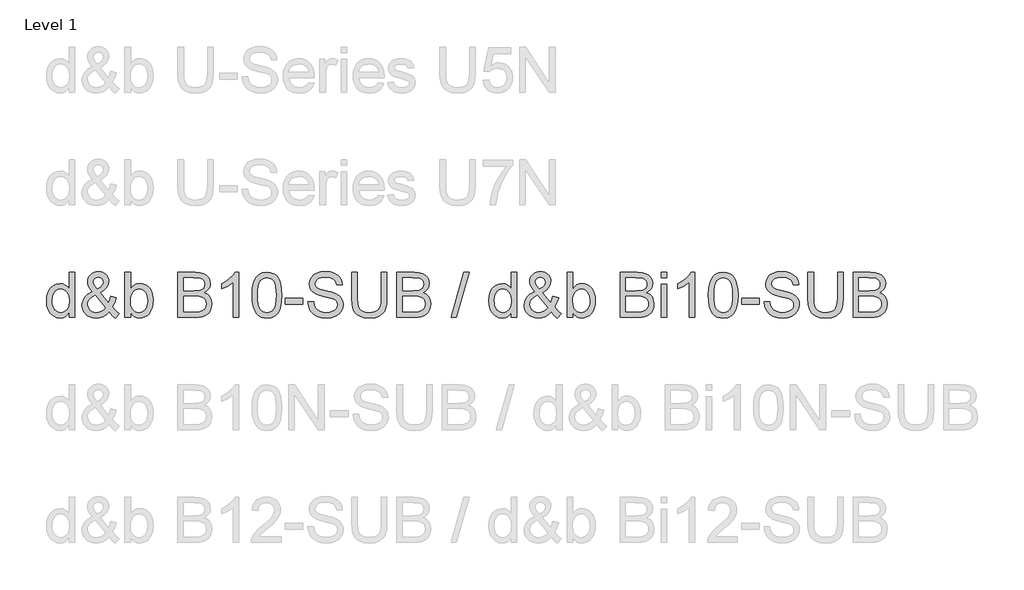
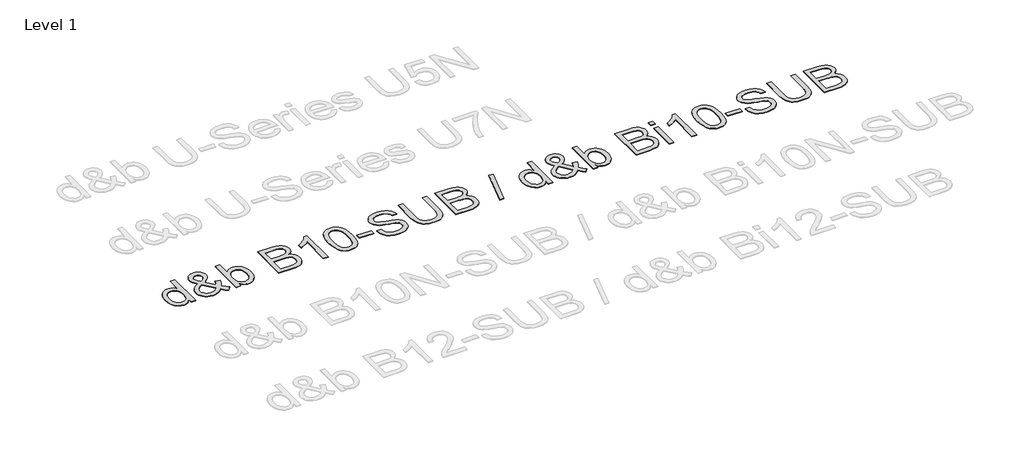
# One storey, part 21 of 29: 1 proxy.
"""IFC4 building model written with IfcOpenShell, lengths in millimetres."""

from ifc_helpers import new_model, si_unit, origin, origin_with_axes, place, context, project, spatial, polyline, outline, extrude, element, save

model = new_model("IFC4")

# Units and contexts
model_context = context("Model", 3, world=origin())
ifc_project = project(units=[si_unit("LENGTHUNIT", "METRE", prefix="MILLI")], contexts=[model_context])

# Site, building, storey
site = spatial("IfcSite", under=ifc_project)
building = spatial("IfcBuilding", under=site)
storey = spatial("IfcBuildingStorey", under=building, Name="Level 1", Elevation=0.0)

# Proxy
placement = place(None, origin())
element("IfcBuildingElementProxy", 1, Name="400mm Arial", ObjectType="400mm Arial", at=placement, inside=storey, context=model_context, shape_type="SweptSolid", body=[
    extrude(outline(polyline([(-20788.4119982, 10464.3636615), (-20788.4119982, 10511.7468625), (-20803.4399777, 10488.2698598), (-20821.6440051, 10471.5005722), (-20843.0240804, 10461.4389996), (-20867.5802036, 10458.0851421), (-20900.051921, 10462.9411844), (-20929.7767862, 10477.5093115), (-20954.9399147, 10500.7717163), (-20973.7264219, 10531.7105921), (-20985.4250694, 10569.0751401), (-20989.3246185, 10611.6145614), (-20985.7316377, 10653.6266853), (-20974.9526952, 10691.5675817), (-20957.0000539, 10723.2790097), (-20931.8859763, 10746.6027282), (-20901.5111863, 10760.950126), (-20867.7764073, 10765.7325919), (-20843.20189, 10762.3112894), (-20821.4723268, 10752.0473817), (-20803.0537016, 10736.3142951), (-20788.4119982, 10716.4854555), (-20788.4119982, 10866.1889021), (-20738.1838431, 10866.1889021), (-20738.1838431, 10464.3636615), (-20788.4119982, 10464.3636615)]), holes=[polyline([(-20939.0964634, 10611.8107652), (-20937.6801177, 10587.4539114), (-20933.4310807, 10566.3773388), (-20926.3493523, 10548.5810472), (-20916.4349325, 10534.0650368), (-20891.7377879, 10514.7512321), (-20877.8625053, 10509.9227809), (-20862.9694159, 10508.3132972), (-20848.0058157, 10509.8492045), (-20834.2133066, 10514.4569265), (-20810.1415614, 10532.8878145), (-20800.6348775, 10546.7968196), (-20793.844389, 10563.9493176), (-20788.4119982, 10607.9847924), (-20793.9424909, 10656.1282828), (-20800.8556067, 10674.663404), (-20810.5339688, 10689.5074425), (-20822.235682, 10700.8811276), (-20835.2188507, 10709.0051883), (-20849.4834751, 10713.8796247), (-20865.0295551, 10715.5044369), (-20880.2169501, 10713.9440041), (-20894.0922327, 10709.2627057), (-20906.6554028, 10701.4605417), (-20917.9064605, 10690.5375121), (-20927.1770868, 10676.2544937), (-20933.7989627, 10658.372363), (-20939.0964634, 10611.8107652)])]), origin_with_axes(), (0.0, 0.0, 1.0), 5.0),
    extrude(outline(polyline([(-20432.4003287, 10514.0032054), (-20457.9313392, 10489.5390527), (-20485.6696416, 10472.0646579), (-20515.664287, 10461.5800211), (-20547.9643262, 10458.0851421), (-20577.2722584, 10460.6725788), (-20603.3918801, 10468.4348889), (-20626.3231911, 10481.3720724), (-20646.0661915, 10499.4841293), (-20658.8991418, 10516.8542908), (-20668.0655348, 10535.2177338), (-20673.5653707, 10554.5744581), (-20675.3986493, 10574.9244638), (-20669.5002746, 10610.118508), (-20651.8051507, 10641.7318341), (-20622.3868538, 10669.7399167), (-20581.3189604, 10694.1182302), (-20603.2324646, 10722.4696693), (-20616.3903773, 10744.9349965), (-20622.975465, 10764.1139112), (-20625.1704942, 10782.6061128), (-20623.4414488, 10800.1602153), (-20618.2543127, 10816.5248327), (-20609.6090858, 10831.699965), (-20597.5057682, 10845.6856122), (-20582.784357, 10857.4026538), (-20566.2848495, 10865.7719692), (-20548.0072457, 10870.7935584), (-20527.9515456, 10872.4674215), (-20508.8032878, 10870.8671348), (-20491.4821772, 10866.0662748), (-20475.9882138, 10858.0648414), (-20462.3213977, 10846.8628346), (-20451.1623105, 10833.4167477), (-20443.1915339, 10818.6830738), (-20438.409068, 10802.6618129), (-20436.8149127, 10785.352965), (-20441.5360649, 10757.3694079), (-20455.6995218, 10731.4950409), (-20479.3052831, 10707.729864), (-20512.353349, 10686.0738773), (-20439.6598668, 10595.5258555), (-20427.2745063, 10621.4002225), (-20417.9793545, 10651.1496132), (-20367.7511994, 10640.2603061), (-20383.2022432, 10593.7354965), (-20403.2640747, 10557.5604336), (-20374.7164319, 10524.2548503), (-20342.6371219, 10496.7372771), (-20380.3082382, 10458.0851421), (-20405.9373505, 10481.5314879), (-20432.4003287, 10514.0032054)]), holes=[polyline([(-20537.7617322, 10717.7607798), (-20511.4949577, 10734.4258341), (-20496.4608468, 10748.908122), (-20489.3975125, 10762.9980024), (-20487.0430678, 10778.4858344), (-20490.1455392, 10796.0338056), (-20499.4529537, 10810.0255842), (-20513.4202068, 10819.1858458), (-20530.5021941, 10822.2392664), (-20547.9520634, 10819.2103713), (-20562.2381476, 10810.123686), (-20571.7662912, 10796.6714677), (-20574.9423391, 10780.5459736), (-20570.6258571, 10762.1518739), (-20557.578309, 10741.6976349), (-20537.7617322, 10717.7607798)]), polyline([(-20466.0492686, 10550.2027937), (-20555.7143735, 10662.1370221), (-20589.9641873, 10640.2848316), (-20610.8966728, 10620.0513218), (-20621.6020389, 10600.7252544), (-20625.1704942, 10581.5953906), (-20620.2899264, 10557.9037901), (-20605.648223, 10533.3292729), (-20594.8692805, 10522.3847835), (-20582.0547244, 10514.5672911), (-20567.2045545, 10509.8767957), (-20550.3187709, 10508.3132972), (-20527.5959264, 10511.2318277), (-20504.1618433, 10519.9874192), (-20482.7388484, 10533.3783238), (-20466.0492686, 10550.2027937)])]), origin_with_axes(), (0.0, 0.0, 1.0), 5.0),
    extrude(outline(polyline([(-20242.1808118, 10464.3636615), (-20292.4089668, 10464.3636615), (-20292.4089668, 10866.1889021), (-20242.1808118, 10866.1889021), (-20242.1808118, 10717.1721686), (-20225.6629102, 10738.4173538), (-20207.011293, 10753.5924861), (-20186.2259603, 10762.6975655), (-20163.306912, 10765.7325919), (-20137.432545, 10762.9980024), (-20112.9806551, 10754.7942339), (-20091.3491937, 10741.6363213), (-20073.9361126, 10724.0392992), (-20060.2876906, 10702.1748459), (-20049.9502065, 10676.2146398), (-20043.4386952, 10647.2378013), (-20041.2681915, 10616.323451), (-20043.5153373, 10580.6511602), (-20050.2567749, 10549.270826), (-20061.4925041, 10522.1824484), (-20077.2225251, 10499.3860274), (-20096.1040685, 10481.3168901), (-20116.7943651, 10468.4103634), (-20139.2934148, 10460.6664474), (-20163.6012176, 10458.0851421), (-20187.274424, 10461.4144742), (-20208.2620918, 10471.4024703), (-20226.5642211, 10488.0491306), (-20242.1808118, 10511.354455), (-20242.1808118, 10464.3636615)]), holes=[polyline([(-20242.1808118, 10613.9690062), (-20238.7472465, 10572.0795097), (-20228.4465506, 10543.7280706), (-20216.2757879, 10528.2341072), (-20202.1307252, 10517.1669905), (-20186.0113625, 10510.5267205), (-20167.9176997, 10508.3132972), (-20152.8958515, 10509.9442407), (-20138.9285984, 10514.8370712), (-20126.0159404, 10522.9917888), (-20114.1578774, 10534.4083934), (-20104.2434577, 10549.0562281), (-20097.1617293, 10566.9046363), (-20092.9126922, 10587.9536178), (-20091.4963465, 10612.2031726), (-20096.9287373, 10658.1638965), (-20103.7192258, 10675.9571224), (-20113.2259097, 10690.2922575), (-20124.6578427, 10701.322586), (-20137.2240785, 10709.201392), (-20150.9246172, 10713.9286757), (-20165.7594586, 10715.5044369), (-20180.7813068, 10713.8734934), (-20194.7485599, 10708.9806628), (-20207.6612179, 10700.8259453), (-20219.5192809, 10689.4093407), (-20229.4337006, 10674.9086587), (-20236.515429, 10657.501709), (-20240.7644661, 10637.1884915), (-20242.1808118, 10613.9690062)])]), origin_with_axes(), (0.0, 0.0, 1.0), 5.0),
    extrude(outline(polyline([(-19821.520013, 10464.3636615), (-19821.520013, 10866.1889021), (-19668.1867974, 10866.1889021), (-19626.015258, 10863.2335834), (-19593.0898195, 10854.3676273), (-19567.8531146, 10839.3703046), (-19548.7477763, 10818.0208862), (-19536.7180351, 10792.9068086), (-19532.7081213, 10766.6155087), (-19536.080373, 10742.4211362), (-19546.1971278, 10719.6737661), (-19563.1319623, 10699.7713502), (-19586.9584529, 10684.1118399), (-19558.4966492, 10669.2494073), (-19537.4660618, 10646.6369274), (-19524.4798274, 10617.7704535), (-19520.1510826, 10584.1460391), (-19523.1064013, 10556.1256938), (-19531.9723573, 10530.1409622), (-19545.2038464, 10508.0435171), (-19561.2557642, 10491.685031), (-19580.9129254, 10479.8392308), (-19604.9601452, 10471.279843), (-19634.1822383, 10466.0927069), (-19669.3640198, 10464.3636615), (-19821.520013, 10464.3636615)]), holes=[polyline([(-19771.2918579, 10702.9473981), (-19679.5666138, 10702.9473981), (-19626.0029953, 10707.2638802), (-19607.2532763, 10714.7073592), (-19593.7765325, 10725.8541837), (-19585.6463404, 10740.5326753), (-19582.9362764, 10758.5711558), (-19585.4623994, 10776.0823387), (-19593.0407685, 10791.3371788), (-19605.3280272, 10803.2442927), (-19621.9808188, 10810.7122972), (-19647.5363548, 10814.6486346), (-19686.5318462, 10815.960747), (-19771.2918579, 10815.960747), (-19771.2918579, 10702.9473981)]), polyline([(-19771.2918579, 10514.5918166), (-19668.2848993, 10514.5918166), (-19631.0061904, 10516.5538539), (-19599.4664407, 10527.4922119), (-19587.8904206, 10536.9222537), (-19578.5707434, 10549.8103862), (-19572.4271141, 10565.5802611), (-19570.3792376, 10583.6555298), (-19572.7827333, 10604.649329), (-19579.9932204, 10622.7000722), (-19592.5870474, 10636.8144781), (-19611.1405627, 10645.9992652), (-19637.4195999, 10651.0392486), (-19673.1899926, 10652.719243), (-19771.2918579, 10652.719243), (-19771.2918579, 10514.5918166)])]), origin_with_axes(), (0.0, 0.0, 1.0), 5.0),
    extrude(outline(polyline([(-19281.567346, 10464.3636615), (-19331.795501, 10464.3636615), (-19331.795501, 10777.5048158), (-19352.7647748, 10760.5454558), (-19379.3749057, 10743.6106213), (-19432.2518112, 10718.2512891), (-19432.2518112, 10765.7325919), (-19392.8025986, 10787.192375), (-19358.6263612, 10812.7233855), (-19331.6851364, 10839.8730767), (-19313.9409615, 10866.1889021), (-19281.567346, 10866.1889021), (-19281.567346, 10464.3636615)])), origin_with_axes(), (0.0, 0.0, 1.0), 5.0),
    extrude(outline(polyline([(-19162.2754777, 10662.0389202), (-19158.584395, 10726.3569557), (-19147.5111469, 10777.6519686), (-19129.1660981, 10816.7087737), (-19117.3080351, 10831.942154), (-19103.6596131, 10844.3121861), (-19088.1748468, 10853.8832494), (-19070.8077509, 10860.7197231), (-19030.4265706, 10866.1889021), (-18999.4754321, 10862.9515405), (-18971.7616551, 10853.2394559), (-18948.5850894, 10837.4327928), (-18931.2455847, 10815.9116961), (-18918.1489857, 10788.8601067), (-18907.701137, 10756.4619657), (-18900.8585319, 10715.3204959), (-18898.5776635, 10662.0389202), (-18902.231958, 10598.0887667), (-18913.1948415, 10546.9163812), (-18931.4295257, 10507.8227879), (-18943.2599975, 10492.5434223), (-18956.8992225, 10480.1090109), (-18972.4023829, 10470.4735683), (-18989.824661, 10463.5911093), (-19030.4265706, 10458.0851421), (-19058.0912966, 10460.4763751), (-19082.616763, 10467.650074), (-19104.0029696, 10479.6062388), (-19122.2499166, 10496.3448696), (-19139.7610995, 10526.6031637), (-19152.2690874, 10564.3049368), (-19159.7738801, 10609.450189), (-19162.2754777, 10662.0389202)]), holes=[polyline([(-19112.0473226, 10662.1370221), (-19110.5757946, 10618.472495), (-19106.1612107, 10583.1282323), (-19098.8035708, 10556.104234), (-19088.5028749, 10537.4005003), (-19076.043938, 10524.6748489), (-19062.211575, 10515.585098), (-19047.0057858, 10510.1312474), (-19030.4265706, 10508.3132972), (-19013.8473553, 10510.1373787), (-18998.6415662, 10515.6096234), (-18984.8092032, 10524.7300312), (-18972.3502663, 10537.4986021), (-18962.0495704, 10556.2329927), (-18954.6919305, 10583.2508596), (-18950.2773466, 10618.5522027), (-18948.8058186, 10662.1370221), (-18950.2282956, 10704.6457866), (-18954.4957268, 10739.3677156), (-18961.608112, 10766.302809), (-18971.5654514, 10785.4510669), (-18983.8159218, 10798.7990519), (-18997.8077003, 10808.333327), (-19013.540787, 10814.053892), (-19031.0151818, 10815.960747), (-19047.5085579, 10814.2807526), (-19062.4568296, 10809.2407692), (-19075.859997, 10800.840797), (-19087.71806, 10789.0808359), (-19098.3621124, 10768.2341895), (-19105.9650069, 10740.1280051), (-19110.5267437, 10704.7622826), (-19112.0473226, 10662.1370221)])]), origin_with_axes(), (0.0, 0.0, 1.0), 5.0),
    extrude(outline(polyline([(-18867.1850666, 10583.6555298), (-18867.1850666, 10633.8836849), (-18710.222082, 10633.8836849), (-18710.222082, 10583.6555298), (-18867.1850666, 10583.6555298)])), origin_with_axes(), (0.0, 0.0, 1.0), 5.0),
    extrude(outline(polyline([(-18666.2724463, 10602.4910879), (-18616.0442912, 10602.4910879), (-18610.2808066, 10574.6178954), (-18599.8574834, 10552.2138819), (-18583.5970992, 10534.4329188), (-18560.3224317, 10520.4288776), (-18531.8728907, 10511.3421923), (-18500.0878863, 10508.3132972), (-18472.1043292, 10510.6064283), (-18447.6033884, 10517.4858216), (-18427.7500234, 10528.3751287), (-18413.7091939, 10542.698001), (-18405.3582726, 10559.1423262), (-18402.5746321, 10576.3959918), (-18404.6592968, 10593.2081989), (-18410.9132907, 10607.7395377), (-18423.6174823, 10620.137161), (-18445.0527399, 10630.5482214), (-18518.1876805, 10649.7271361), (-18566.1962809, 10662.419065), (-18596.9144275, 10674.4978571), (-18621.9181404, 10691.3959034), (-18639.6377898, 10711.8746678), (-18650.1960031, 10735.4926919), (-18653.7154075, 10761.8085173), (-18649.3621372, 10791.2268142), (-18636.3023264, 10818.6585483), (-18614.8793316, 10841.9086904), (-18585.4365092, 10858.7822113), (-18550.0953122, 10869.0461189), (-18510.9771934, 10872.4674215), (-18468.5971875, 10868.8867034), (-18431.5146824, 10858.1445491), (-18401.0540532, 10840.4616879), (-18378.5396751, 10816.0588489), (-18364.2903792, 10786.456611), (-18358.6249965, 10753.1755532), (-18408.8531515, 10753.1755532), (-18418.0747269, 10783.145673), (-18426.4379109, 10795.003736), (-18437.3026925, 10804.7771344), (-18467.3463888, 10817.8737334), (-18509.0151561, 10822.2392664), (-18551.6649421, 10817.9227843), (-18567.9682458, 10812.5271817), (-18580.9238234, 10804.9733381), (-18597.8463952, 10785.9170507), (-18603.4872524, 10763.2800453), (-18599.4896014, 10743.9785033), (-18587.4966484, 10728.4538831), (-18559.1452093, 10714.5724691), (-18505.4834889, 10700.3967496), (-18450.1049859, 10686.9322686), (-18416.6031989, 10675.1845702), (-18387.9697169, 10656.9621487), (-18367.9937246, 10634.4722961), (-18356.258289, 10607.9602669), (-18352.3464771, 10577.671316), (-18356.8469001, 10546.7079147), (-18370.3481694, 10517.5839235), (-18392.2984617, 10492.5188969), (-18422.1459543, 10473.7323896), (-18458.0389743, 10461.996954), (-18498.125849, 10458.0851421), (-18547.3361972, 10462.3035223), (-18587.8400049, 10474.958663), (-18620.1032559, 10496.0996149), (-18644.591934, 10525.7754292), (-18660.312758, 10561.9259666), (-18666.2724463, 10602.4910879)])), origin_with_axes(), (0.0, 0.0, 1.0), 5.0),
    extrude(outline(polyline([(-18013.3064303, 10866.1889021), (-17963.0782752, 10866.1889021), (-17963.0782752, 10634.3741942), (-17966.4873151, 10580.0870744), (-17976.7144345, 10538.2834171), (-17984.8998089, 10521.3301884), (-17995.8197728, 10506.0324288), (-18025.8634691, 10480.4033165), (-18045.0055956, 10470.6391152), (-18066.9190997, 10463.6646857), (-18119.0602412, 10458.0851421), (-18170.0609485, 10462.9411844), (-18210.8345363, 10477.5093115), (-18227.389226, 10488.3097137), (-18241.3932673, 10501.2867511), (-18252.8466601, 10516.4404236), (-18261.7494044, 10533.7707312), (-18273.1905344, 10577.3402222), (-18277.0042445, 10634.3741942), (-18277.0042445, 10866.1889021), (-18226.7760894, 10866.1889021), (-18226.7760894, 10636.1400278), (-18224.2990173, 10591.000907), (-18216.867801, 10559.5715218), (-18203.40332, 10537.8051705), (-18182.8264537, 10521.6551509), (-18155.9955935, 10511.6487606), (-18123.7691307, 10508.3132972), (-18096.0860106, 10509.9626348), (-18072.6825843, 10514.9106476), (-18053.558852, 10523.1573357), (-18038.7148135, 10534.702699), (-18027.5986458, 10550.9385577), (-18019.6585261, 10573.2567321), (-18014.8944543, 10601.6572221), (-18013.3064303, 10636.1400278), (-18013.3064303, 10866.1889021)])), origin_with_axes(), (0.0, 0.0, 1.0), 5.0),
    extrude(outline(polyline([(-17875.1790039, 10464.3636615), (-17875.1790039, 10866.1889021), (-17721.8457883, 10866.1889021), (-17679.6742489, 10863.2335834), (-17646.7488103, 10854.3676273), (-17621.5121055, 10839.3703046), (-17602.4067672, 10818.0208862), (-17590.3770259, 10792.9068086), (-17586.3671122, 10766.6155087), (-17589.7393638, 10742.4211362), (-17599.8561187, 10719.6737661), (-17616.7909532, 10699.7713502), (-17640.6174437, 10684.1118399), (-17612.15564, 10669.2494073), (-17591.1250527, 10646.6369274), (-17578.1388182, 10617.7704535), (-17573.8100734, 10584.1460391), (-17576.7653921, 10556.1256938), (-17585.6313482, 10530.1409622), (-17598.8628373, 10508.0435171), (-17614.914755, 10491.685031), (-17634.5719163, 10479.8392308), (-17658.619136, 10471.279843), (-17687.8412292, 10466.0927069), (-17723.0230107, 10464.3636615), (-17875.1790039, 10464.3636615)]), holes=[polyline([(-17824.9508488, 10702.9473981), (-17733.2256047, 10702.9473981), (-17679.6619862, 10707.2638802), (-17660.9122671, 10714.7073592), (-17647.4355234, 10725.8541837), (-17639.3053313, 10740.5326753), (-17636.5952673, 10758.5711558), (-17639.1213903, 10776.0823387), (-17646.6997594, 10791.3371788), (-17658.987018, 10803.2442927), (-17675.6398097, 10810.7122972), (-17701.1953456, 10814.6486346), (-17740.1908371, 10815.960747), (-17824.9508488, 10815.960747), (-17824.9508488, 10702.9473981)]), polyline([(-17824.9508488, 10514.5918166), (-17721.9438901, 10514.5918166), (-17684.6651813, 10516.5538539), (-17653.1254316, 10527.4922119), (-17641.5494115, 10536.9222537), (-17632.2297342, 10549.8103862), (-17626.0861049, 10565.5802611), (-17624.0382285, 10583.6555298), (-17626.4417242, 10604.649329), (-17633.6522113, 10622.7000722), (-17646.2460383, 10636.8144781), (-17664.7995536, 10645.9992652), (-17691.0785907, 10651.0392486), (-17726.8489834, 10652.719243), (-17824.9508488, 10652.719243), (-17824.9508488, 10514.5918166)])]), origin_with_axes(), (0.0, 0.0, 1.0), 5.0),
    extrude(outline(polyline([(-17391.7330113, 10464.3636615), (-17278.7196623, 10866.1889021), (-17233.2003968, 10866.1889021), (-17346.3118476, 10464.3636615), (-17391.7330113, 10464.3636615)])), origin_with_axes(), (0.0, 0.0, 1.0), 5.0),
    extrude(outline(polyline([(-16858.0588636, 10464.3636615), (-16858.0588636, 10511.7468625), (-16873.0868431, 10488.2698598), (-16891.2908705, 10471.5005722), (-16912.6709458, 10461.4389996), (-16937.227069, 10458.0851421), (-16969.6987864, 10462.9411844), (-16999.4236516, 10477.5093115), (-17024.5867801, 10500.7717163), (-17043.3732873, 10531.7105921), (-17055.0719347, 10569.0751401), (-17058.9714839, 10611.6145614), (-17055.3785031, 10653.6266853), (-17044.5995606, 10691.5675817), (-17026.6469193, 10723.2790097), (-17001.5328417, 10746.6027282), (-16971.1580516, 10760.950126), (-16937.4232727, 10765.7325919), (-16912.8487554, 10762.3112894), (-16891.1191922, 10752.0473817), (-16872.700567, 10736.3142951), (-16858.0588636, 10716.4854555), (-16858.0588636, 10866.1889021), (-16807.8307085, 10866.1889021), (-16807.8307085, 10464.3636615), (-16858.0588636, 10464.3636615)]), holes=[polyline([(-17008.7433288, 10611.8107652), (-17007.3269831, 10587.4539114), (-17003.0779461, 10566.3773388), (-16995.9962177, 10548.5810472), (-16986.0817979, 10534.0650368), (-16961.3846533, 10514.7512321), (-16947.5093707, 10509.9227809), (-16932.6162813, 10508.3132972), (-16917.6526811, 10509.8492045), (-16903.860172, 10514.4569265), (-16879.7884268, 10532.8878145), (-16870.2817429, 10546.7968196), (-16863.4912544, 10563.9493176), (-16858.0588636, 10607.9847924), (-16863.5893563, 10656.1282828), (-16870.5024721, 10674.663404), (-16880.1808342, 10689.5074425), (-16891.8825474, 10700.8811276), (-16904.8657161, 10709.0051883), (-16919.1303405, 10713.8796247), (-16934.6764205, 10715.5044369), (-16949.8638155, 10713.9440041), (-16963.7390981, 10709.2627057), (-16976.3022682, 10701.4605417), (-16987.5533259, 10690.5375121), (-16996.8239522, 10676.2544937), (-17003.4458281, 10658.372363), (-17008.7433288, 10611.8107652)])]), origin_with_axes(), (0.0, 0.0, 1.0), 5.0),
    extrude(outline(polyline([(-16502.0471941, 10514.0032054), (-16527.5782046, 10489.5390527), (-16555.316507, 10472.0646579), (-16585.3111524, 10461.5800211), (-16617.6111915, 10458.0851421), (-16646.9191238, 10460.6725788), (-16673.0387455, 10468.4348889), (-16695.9700565, 10481.3720724), (-16715.7130569, 10499.4841293), (-16728.5460072, 10516.8542908), (-16737.7124002, 10535.2177338), (-16743.2122361, 10554.5744581), (-16745.0455147, 10574.9244638), (-16739.14714, 10610.118508), (-16721.4520161, 10641.7318341), (-16692.0337192, 10669.7399167), (-16650.9658258, 10694.1182302), (-16672.87933, 10722.4696693), (-16686.0372427, 10744.9349965), (-16692.6223304, 10764.1139112), (-16694.8173596, 10782.6061128), (-16693.0883142, 10800.1602153), (-16687.9011781, 10816.5248327), (-16679.2559512, 10831.699965), (-16667.1526336, 10845.6856122), (-16652.4312224, 10857.4026538), (-16635.9317149, 10865.7719692), (-16617.6541111, 10870.7935584), (-16597.598411, 10872.4674215), (-16578.4501532, 10870.8671348), (-16561.1290426, 10866.0662748), (-16545.6350792, 10858.0648414), (-16531.9682631, 10846.8628346), (-16520.8091759, 10833.4167477), (-16512.8383993, 10818.6830738), (-16508.0559334, 10802.6618129), (-16506.4617781, 10785.352965), (-16511.1829303, 10757.3694079), (-16525.3463872, 10731.4950409), (-16548.9521485, 10707.729864), (-16582.0002144, 10686.0738773), (-16509.3067322, 10595.5258555), (-16496.9213717, 10621.4002225), (-16487.6262199, 10651.1496132), (-16437.3980648, 10640.2603061), (-16452.8491086, 10593.7354965), (-16472.9109401, 10557.5604336), (-16444.3632973, 10524.2548503), (-16412.2839873, 10496.7372771), (-16449.9551036, 10458.0851421), (-16475.5842159, 10481.5314879), (-16502.0471941, 10514.0032054)]), holes=[polyline([(-16535.696134, 10550.2027937), (-16625.3612389, 10662.1370221), (-16659.6110527, 10640.2848316), (-16680.5435382, 10620.0513218), (-16691.2489043, 10600.7252544), (-16694.8173596, 10581.5953906), (-16689.9367918, 10557.9037901), (-16675.2950884, 10533.3292729), (-16664.5161459, 10522.3847835), (-16651.7015898, 10514.5672911), (-16636.8514199, 10509.8767957), (-16619.9656363, 10508.3132972), (-16597.2427918, 10511.2318277), (-16573.8087087, 10519.9874192), (-16552.3857138, 10533.3783238), (-16535.696134, 10550.2027937)]), polyline([(-16607.4085976, 10717.7607798), (-16581.1418231, 10734.4258341), (-16566.1077122, 10748.908122), (-16559.0443779, 10762.9980024), (-16556.6899331, 10778.4858344), (-16559.7924046, 10796.0338056), (-16569.0998191, 10810.0255842), (-16583.0670722, 10819.1858458), (-16600.1490595, 10822.2392664), (-16617.5989288, 10819.2103713), (-16631.885013, 10810.123686), (-16641.4131566, 10796.6714677), (-16644.5892045, 10780.5459736), (-16640.2727225, 10762.1518739), (-16627.2251744, 10741.6976349), (-16607.4085976, 10717.7607798)])]), origin_with_axes(), (0.0, 0.0, 1.0), 5.0),
    extrude(outline(polyline([(-16311.8276772, 10464.3636615), (-16362.0558322, 10464.3636615), (-16362.0558322, 10866.1889021), (-16311.8276772, 10866.1889021), (-16311.8276772, 10717.1721686), (-16295.3097756, 10738.4173538), (-16276.6581584, 10753.5924861), (-16255.8728257, 10762.6975655), (-16232.9537774, 10765.7325919), (-16207.0794104, 10762.9980024), (-16182.6275205, 10754.7942339), (-16160.9960591, 10741.6363213), (-16143.582978, 10724.0392992), (-16129.934556, 10702.1748459), (-16119.5970719, 10676.2146398), (-16113.0855606, 10647.2378013), (-16110.9150569, 10616.323451), (-16113.1622027, 10580.6511602), (-16119.9036403, 10549.270826), (-16131.1393695, 10522.1824484), (-16146.8693905, 10499.3860274), (-16165.7509339, 10481.3168901), (-16186.4412305, 10468.4103634), (-16208.9402802, 10460.6664474), (-16233.248083, 10458.0851421), (-16256.9212894, 10461.4144742), (-16277.9089572, 10471.4024703), (-16296.2110865, 10488.0491306), (-16311.8276772, 10511.354455), (-16311.8276772, 10464.3636615)]), holes=[polyline([(-16311.8276772, 10613.9690062), (-16308.3941119, 10572.0795097), (-16298.093416, 10543.7280706), (-16285.9226533, 10528.2341072), (-16271.7775906, 10517.1669905), (-16255.6582279, 10510.5267205), (-16237.5645651, 10508.3132972), (-16222.5427169, 10509.9442407), (-16208.5754638, 10514.8370712), (-16195.6628058, 10522.9917888), (-16183.8047428, 10534.4083934), (-16173.8903231, 10549.0562281), (-16166.8085947, 10566.9046363), (-16162.5595576, 10587.9536178), (-16161.1432119, 10612.2031726), (-16166.5756027, 10658.1638965), (-16173.3660912, 10675.9571224), (-16182.8727751, 10690.2922575), (-16194.3047081, 10701.322586), (-16206.8709439, 10709.201392), (-16220.5714826, 10713.9286757), (-16235.406324, 10715.5044369), (-16250.4281722, 10713.8734934), (-16264.3954252, 10708.9806628), (-16277.3080833, 10700.8259453), (-16289.1661463, 10689.4093407), (-16299.080566, 10674.9086587), (-16306.1622944, 10657.501709), (-16310.4113315, 10637.1884915), (-16311.8276772, 10613.9690062)])]), origin_with_axes(), (0.0, 0.0, 1.0), 5.0),
    extrude(outline(polyline([(-15891.1668784, 10464.3636615), (-15891.1668784, 10866.1889021), (-15737.8336628, 10866.1889021), (-15695.6621234, 10863.2335834), (-15662.7366849, 10854.3676273), (-15637.49998, 10839.3703046), (-15618.3946417, 10818.0208862), (-15606.3649005, 10792.9068086), (-15602.3549867, 10766.6155087), (-15605.7272383, 10742.4211362), (-15615.8439932, 10719.6737661), (-15632.7788277, 10699.7713502), (-15656.6053183, 10684.1118399), (-15628.1435146, 10669.2494073), (-15607.1129272, 10646.6369274), (-15594.1266928, 10617.7704535), (-15589.797948, 10584.1460391), (-15592.7532667, 10556.1256938), (-15601.6192227, 10530.1409622), (-15614.8507118, 10508.0435171), (-15630.9026296, 10491.685031), (-15650.5597908, 10479.8392308), (-15674.6070106, 10471.279843), (-15703.8291037, 10466.0927069), (-15739.0108852, 10464.3636615), (-15891.1668784, 10464.3636615)]), holes=[polyline([(-15840.9387233, 10702.9473981), (-15749.2134792, 10702.9473981), (-15695.6498607, 10707.2638802), (-15676.9001417, 10714.7073592), (-15663.4233979, 10725.8541837), (-15655.2932058, 10740.5326753), (-15652.5831418, 10758.5711558), (-15655.1092648, 10776.0823387), (-15662.6876339, 10791.3371788), (-15674.9748926, 10803.2442927), (-15691.6276842, 10810.7122972), (-15717.1832202, 10814.6486346), (-15756.1787116, 10815.960747), (-15840.9387233, 10815.960747), (-15840.9387233, 10702.9473981)]), polyline([(-15840.9387233, 10514.5918166), (-15737.9317647, 10514.5918166), (-15700.6530558, 10516.5538539), (-15669.1133061, 10527.4922119), (-15657.537286, 10536.9222537), (-15648.2176088, 10549.8103862), (-15642.0739795, 10565.5802611), (-15640.026103, 10583.6555298), (-15642.4295987, 10604.649329), (-15649.6400858, 10622.7000722), (-15662.2339128, 10636.8144781), (-15680.7874281, 10645.9992652), (-15707.0664653, 10651.0392486), (-15742.836858, 10652.719243), (-15840.9387233, 10652.719243), (-15840.9387233, 10514.5918166)])]), origin_with_axes(), (0.0, 0.0, 1.0), 5.0),
    extrude(outline(polyline([(-15527.0127541, 10815.960747), (-15527.0127541, 10866.1889021), (-15476.784599, 10866.1889021), (-15476.784599, 10815.960747), (-15527.0127541, 10815.960747)])), origin_with_axes(), (0.0, 0.0, 1.0), 5.0),
    extrude(outline(polyline([(-15527.0127541, 10464.3636615), (-15527.0127541, 10759.4540726), (-15476.784599, 10759.4540726), (-15476.784599, 10464.3636615), (-15527.0127541, 10464.3636615)])), origin_with_axes(), (0.0, 0.0, 1.0), 5.0),
    extrude(outline(polyline([(-15225.6438237, 10464.3636615), (-15275.8719787, 10464.3636615), (-15275.8719787, 10777.5048158), (-15296.8412525, 10760.5454558), (-15323.4513835, 10743.6106213), (-15376.3282889, 10718.2512891), (-15376.3282889, 10765.7325919), (-15336.8790763, 10787.192375), (-15302.7028389, 10812.7233855), (-15275.7616141, 10839.8730767), (-15258.0174392, 10866.1889021), (-15225.6438237, 10866.1889021), (-15225.6438237, 10464.3636615)])), origin_with_axes(), (0.0, 0.0, 1.0), 5.0),
    extrude(outline(polyline([(-15106.3519554, 10662.0389202), (-15102.6608727, 10726.3569557), (-15091.5876246, 10777.6519686), (-15073.2425758, 10816.7087737), (-15061.3845128, 10831.942154), (-15047.7360908, 10844.3121861), (-15032.2513245, 10853.8832494), (-15014.8842286, 10860.7197231), (-14974.5030483, 10866.1889021), (-14943.5519098, 10862.9515405), (-14915.8381328, 10853.2394559), (-14892.6615671, 10837.4327928), (-14875.3220624, 10815.9116961), (-14862.2254634, 10788.8601067), (-14851.7776147, 10756.4619657), (-14844.9350096, 10715.3204959), (-14842.6541412, 10662.0389202), (-14846.3084357, 10598.0887667), (-14857.2713192, 10546.9163812), (-14875.5060034, 10507.8227879), (-14887.3364752, 10492.5434223), (-14900.9757002, 10480.1090109), (-14916.4788606, 10470.4735683), (-14933.9011388, 10463.5911093), (-14974.5030483, 10458.0851421), (-15002.1677743, 10460.4763751), (-15026.6932407, 10467.650074), (-15048.0794473, 10479.6062388), (-15066.3263943, 10496.3448696), (-15083.8375773, 10526.6031637), (-15096.3455651, 10564.3049368), (-15103.8503578, 10609.450189), (-15106.3519554, 10662.0389202)]), holes=[polyline([(-15056.1238003, 10662.1370221), (-15054.6522723, 10618.472495), (-15050.2376884, 10583.1282323), (-15042.8800485, 10556.104234), (-15032.5793526, 10537.4005003), (-15020.1204157, 10524.6748489), (-15006.2880527, 10515.585098), (-14991.0822635, 10510.1312474), (-14974.5030483, 10508.3132972), (-14957.923833, 10510.1373787), (-14942.7180439, 10515.6096234), (-14928.8856809, 10524.7300312), (-14916.426744, 10537.4986021), (-14906.1260481, 10556.2329927), (-14898.7684082, 10583.2508596), (-14894.3538243, 10618.5522027), (-14892.8822963, 10662.1370221), (-14894.3047733, 10704.6457866), (-14898.5722045, 10739.3677156), (-14905.6845897, 10766.302809), (-14915.6419291, 10785.4510669), (-14927.8923995, 10798.7990519), (-14941.8841781, 10808.333327), (-14957.6172647, 10814.053892), (-14975.0916595, 10815.960747), (-14991.5850356, 10814.2807526), (-15006.5333073, 10809.2407692), (-15019.9364747, 10800.840797), (-15031.7945377, 10789.0808359), (-15042.4385901, 10768.2341895), (-15050.0414846, 10740.1280051), (-15054.6032214, 10704.7622826), (-15056.1238003, 10662.1370221)])]), origin_with_axes(), (0.0, 0.0, 1.0), 5.0),
    extrude(outline(polyline([(-14811.2615443, 10583.6555298), (-14811.2615443, 10633.8836849), (-14654.2985597, 10633.8836849), (-14654.2985597, 10583.6555298), (-14811.2615443, 10583.6555298)])), origin_with_axes(), (0.0, 0.0, 1.0), 5.0),
    extrude(outline(polyline([(-14610.348924, 10602.4910879), (-14560.1207689, 10602.4910879), (-14554.3572843, 10574.6178954), (-14543.9339611, 10552.2138819), (-14527.673577, 10534.4329188), (-14504.3989094, 10520.4288776), (-14475.9493684, 10511.3421923), (-14444.164364, 10508.3132972), (-14416.1808069, 10510.6064283), (-14391.6798661, 10517.4858216), (-14371.8265011, 10528.3751287), (-14357.7856716, 10542.698001), (-14349.4347503, 10559.1423262), (-14346.6511099, 10576.3959918), (-14348.7357745, 10593.2081989), (-14354.9897684, 10607.7395377), (-14367.69396, 10620.137161), (-14389.1292176, 10630.5482214), (-14462.2641582, 10649.7271361), (-14510.2727586, 10662.419065), (-14540.9909052, 10674.4978571), (-14565.9946181, 10691.3959034), (-14583.7142675, 10711.8746678), (-14594.2724808, 10735.4926919), (-14597.7918852, 10761.8085173), (-14593.438615, 10791.2268142), (-14580.3788041, 10818.6585483), (-14558.9558093, 10841.9086904), (-14529.5129869, 10858.7822113), (-14494.1717899, 10869.0461189), (-14455.0536711, 10872.4674215), (-14412.6736653, 10868.8867034), (-14375.5911601, 10858.1445491), (-14345.1305309, 10840.4616879), (-14322.6161528, 10816.0588489), (-14308.3668569, 10786.456611), (-14302.7014742, 10753.1755532), (-14352.9296292, 10753.1755532), (-14362.1512046, 10783.145673), (-14370.5143886, 10795.003736), (-14381.3791702, 10804.7771344), (-14411.4228665, 10817.8737334), (-14453.0916338, 10822.2392664), (-14495.7414198, 10817.9227843), (-14512.0447235, 10812.5271817), (-14525.0003011, 10804.9733381), (-14541.9228729, 10785.9170507), (-14547.5637302, 10763.2800453), (-14543.5660791, 10743.9785033), (-14531.5731261, 10728.4538831), (-14503.221687, 10714.5724691), (-14449.5599666, 10700.3967496), (-14394.1814636, 10686.9322686), (-14360.6796766, 10675.1845702), (-14332.0461946, 10656.9621487), (-14312.0702023, 10634.4722961), (-14300.3347667, 10607.9602669), (-14296.4229548, 10577.671316), (-14300.9233779, 10546.7079147), (-14314.4246471, 10517.5839235), (-14336.3749395, 10492.5188969), (-14366.222432, 10473.7323896), (-14402.115452, 10461.996954), (-14442.2023267, 10458.0851421), (-14491.412675, 10462.3035223), (-14531.9164826, 10474.958663), (-14564.1797336, 10496.0996149), (-14588.6684118, 10525.7754292), (-14604.3892357, 10561.9259666), (-14610.348924, 10602.4910879)])), origin_with_axes(), (0.0, 0.0, 1.0), 5.0),
    extrude(outline(polyline([(-13957.382908, 10866.1889021), (-13907.154753, 10866.1889021), (-13907.154753, 10634.3741942), (-13910.5637928, 10580.0870744), (-13920.7909122, 10538.2834171), (-13928.9762866, 10521.3301884), (-13939.8962505, 10506.0324288), (-13969.9399468, 10480.4033165), (-13989.0820733, 10470.6391152), (-14010.9955775, 10463.6646857), (-14063.1367189, 10458.0851421), (-14114.1374262, 10462.9411844), (-14154.911014, 10477.5093115), (-14171.4657038, 10488.3097137), (-14185.469745, 10501.2867511), (-14196.9231378, 10516.4404236), (-14205.8258821, 10533.7707312), (-14217.2670122, 10577.3402222), (-14221.0807222, 10634.3741942), (-14221.0807222, 10866.1889021), (-14170.8525671, 10866.1889021), (-14170.8525671, 10636.1400278), (-14168.375495, 10591.000907), (-14160.9442787, 10559.5715218), (-14147.4797977, 10537.8051705), (-14126.9029314, 10521.6551509), (-14100.0720712, 10511.6487606), (-14067.8456084, 10508.3132972), (-14040.1624883, 10509.9626348), (-14016.759062, 10514.9106476), (-13997.6353297, 10523.1573357), (-13982.7912912, 10534.702699), (-13971.6751235, 10550.9385577), (-13963.7350038, 10573.2567321), (-13958.970932, 10601.6572221), (-13957.382908, 10636.1400278), (-13957.382908, 10866.1889021)])), origin_with_axes(), (0.0, 0.0, 1.0), 5.0),
    extrude(outline(polyline([(-13819.2554816, 10464.3636615), (-13819.2554816, 10866.1889021), (-13665.922266, 10866.1889021), (-13623.7507266, 10863.2335834), (-13590.825288, 10854.3676273), (-13565.5885832, 10839.3703046), (-13546.4832449, 10818.0208862), (-13534.4535036, 10792.9068086), (-13530.4435899, 10766.6155087), (-13533.8158415, 10742.4211362), (-13543.9325964, 10719.6737661), (-13560.8674309, 10699.7713502), (-13584.6939214, 10684.1118399), (-13556.2321178, 10669.2494073), (-13535.2015304, 10646.6369274), (-13522.2152959, 10617.7704535), (-13517.8865511, 10584.1460391), (-13520.8418698, 10556.1256938), (-13529.7078259, 10530.1409622), (-13542.939315, 10508.0435171), (-13558.9912327, 10491.685031), (-13578.648394, 10479.8392308), (-13602.6956137, 10471.279843), (-13631.9177069, 10466.0927069), (-13667.0994884, 10464.3636615), (-13819.2554816, 10464.3636615)]), holes=[polyline([(-13769.0273265, 10702.9473981), (-13677.3020824, 10702.9473981), (-13623.7384639, 10707.2638802), (-13604.9887448, 10714.7073592), (-13591.5120011, 10725.8541837), (-13583.381809, 10740.5326753), (-13580.671745, 10758.5711558), (-13583.197868, 10776.0823387), (-13590.7762371, 10791.3371788), (-13603.0634957, 10803.2442927), (-13619.7162874, 10810.7122972), (-13645.2718233, 10814.6486346), (-13684.2673148, 10815.960747), (-13769.0273265, 10815.960747), (-13769.0273265, 10702.9473981)]), polyline([(-13769.0273265, 10514.5918166), (-13666.0203678, 10514.5918166), (-13628.741659, 10516.5538539), (-13597.2019093, 10527.4922119), (-13585.6258892, 10536.9222537), (-13576.306212, 10549.8103862), (-13570.1625826, 10565.5802611), (-13568.1147062, 10583.6555298), (-13570.5182019, 10604.649329), (-13577.728689, 10622.7000722), (-13590.322516, 10636.8144781), (-13608.8760313, 10645.9992652), (-13635.1550685, 10651.0392486), (-13670.9254611, 10652.719243), (-13769.0273265, 10652.719243), (-13769.0273265, 10514.5918166)])]), origin_with_axes(), (0.0, 0.0, 1.0), 5.0),
])

save(model, "model.ifc")
